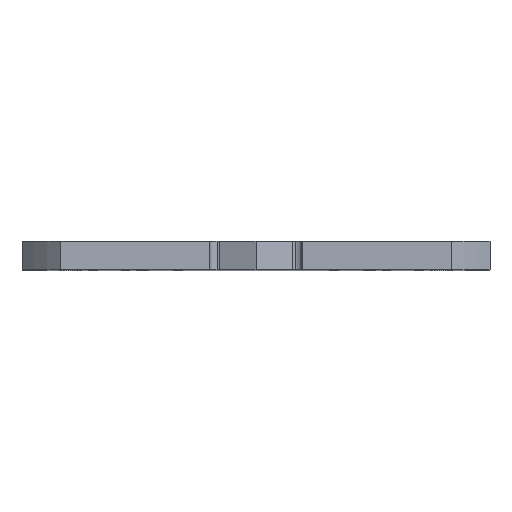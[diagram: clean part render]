
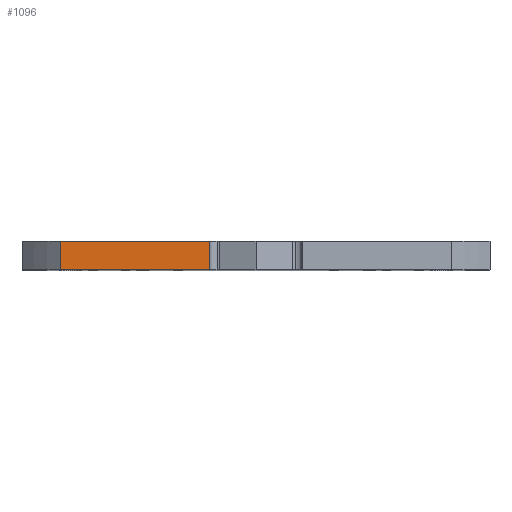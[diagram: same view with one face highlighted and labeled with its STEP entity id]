
A CAD part, top view. The second image highlights one B-rep face of the part: STEP entity #1096.
In plain terms, the highlighted planar face has unit normal (0, 0, 1).
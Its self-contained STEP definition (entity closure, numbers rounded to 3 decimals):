
#39 = AXIS2_PLACEMENT_3D ( 'NONE', #646, #2726, #2258 ) ;
#48 = CARTESIAN_POINT ( 'NONE',  ( -137.84, 20., 165. ) ) ;
#147 = CARTESIAN_POINT ( 'NONE',  ( -32.5, 20., 165. ) ) ;
#250 = LINE ( 'NONE', #1284, #855 ) ;
#272 = VERTEX_POINT ( 'NONE', #147 ) ;
#646 = CARTESIAN_POINT ( 'NONE',  ( -32.5, 0., 165. ) ) ;
#691 = CARTESIAN_POINT ( 'NONE',  ( -137.84, 0., 165. ) ) ;
#855 = VECTOR ( 'NONE', #2341, 1000. ) ;
#868 = DIRECTION ( 'NONE',  ( -1., 0., 0. ) ) ;
#886 = CARTESIAN_POINT ( 'NONE',  ( -32.5, 0., 165. ) ) ;
#898 = FACE_OUTER_BOUND ( 'NONE', #1457, .T. ) ;
#1064 = LINE ( 'NONE', #2139, #2278 ) ;
#1096 = ADVANCED_FACE ( 'NONE', ( #898 ), #1443, .F. ) ;
#1211 = VERTEX_POINT ( 'NONE', #2810 ) ;
#1267 = EDGE_CURVE ( 'NONE', #2157, #272, #250, .T. ) ;
#1284 = CARTESIAN_POINT ( 'NONE',  ( -32.5, 0., 165. ) ) ;
#1413 = VERTEX_POINT ( 'NONE', #48 ) ;
#1443 = PLANE ( 'NONE',  #39 ) ;
#1457 = EDGE_LOOP ( 'NONE', ( #2761, #2170, #2432, #2724 ) ) ;
#1604 = DIRECTION ( 'NONE',  ( -1., 0., 0. ) ) ;
#2139 = CARTESIAN_POINT ( 'NONE',  ( -32.5, 20., 165. ) ) ;
#2157 = VERTEX_POINT ( 'NONE', #886 ) ;
#2170 = ORIENTED_EDGE ( 'NONE', *, *, #2589, .F. ) ;
#2258 = DIRECTION ( 'NONE',  ( -1., 0., 0. ) ) ;
#2278 = VECTOR ( 'NONE', #868, 1000. ) ;
#2341 = DIRECTION ( 'NONE',  ( 0., 1., 0. ) ) ;
#2391 = LINE ( 'NONE', #2612, #2984 ) ;
#2432 = ORIENTED_EDGE ( 'NONE', *, *, #3162, .F. ) ;
#2535 = EDGE_CURVE ( 'NONE', #272, #1413, #1064, .T. ) ;
#2589 = EDGE_CURVE ( 'NONE', #1211, #1413, #3283, .T. ) ;
#2612 = CARTESIAN_POINT ( 'NONE',  ( -32.5, 0., 165. ) ) ;
#2724 = ORIENTED_EDGE ( 'NONE', *, *, #1267, .T. ) ;
#2726 = DIRECTION ( 'NONE',  ( 0., 0., -1. ) ) ;
#2761 = ORIENTED_EDGE ( 'NONE', *, *, #2535, .T. ) ;
#2793 = DIRECTION ( 'NONE',  ( 0., 1., 0. ) ) ;
#2810 = CARTESIAN_POINT ( 'NONE',  ( -137.84, 0., 165. ) ) ;
#2940 = VECTOR ( 'NONE', #2793, 1000. ) ;
#2984 = VECTOR ( 'NONE', #1604, 1000. ) ;
#3162 = EDGE_CURVE ( 'NONE', #2157, #1211, #2391, .T. ) ;
#3283 = LINE ( 'NONE', #691, #2940 ) ;
